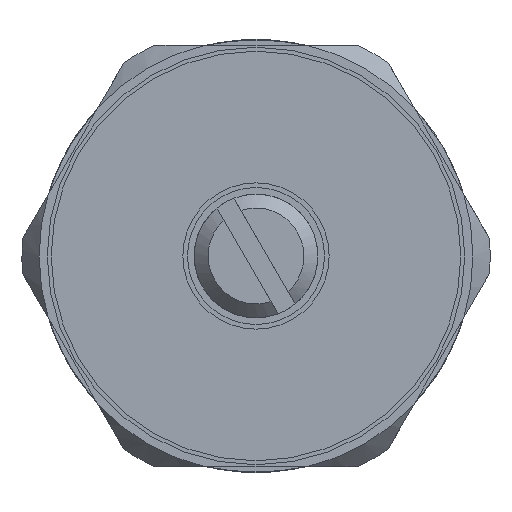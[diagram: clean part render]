
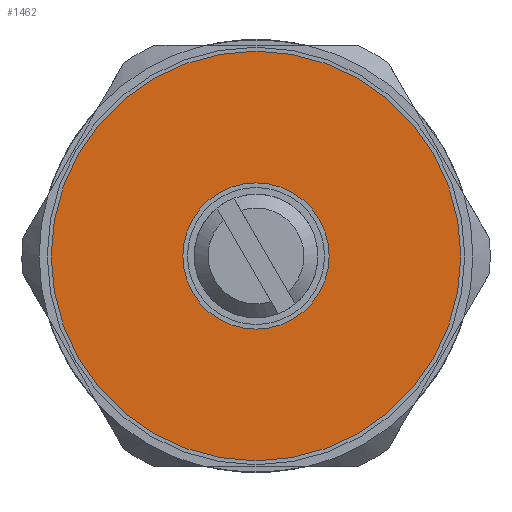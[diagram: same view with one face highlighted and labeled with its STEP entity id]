
A CAD part, left-side view. The second image highlights one B-rep face of the part: STEP entity #1462.
In plain terms, the highlighted planar face has unit normal (-1, 0, 0).
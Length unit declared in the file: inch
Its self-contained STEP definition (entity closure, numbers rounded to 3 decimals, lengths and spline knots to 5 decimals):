
#76=FACE_BOUND('',#243,.T.);
#104=PLANE('',#1600);
#159=FACE_OUTER_BOUND('',#242,.T.);
#242=EDGE_LOOP('',(#1075,#1076));
#243=EDGE_LOOP('',(#1077,#1078));
#440=CIRCLE('',#1545,0.14764);
#441=CIRCLE('',#1546,0.14764);
#470=CIRCLE('',#1601,0.41339);
#471=CIRCLE('',#1602,0.41339);
#557=VERTEX_POINT('',#2209);
#558=VERTEX_POINT('',#2210);
#611=VERTEX_POINT('',#2418);
#612=VERTEX_POINT('',#2419);
#709=EDGE_CURVE('',#557,#558,#440,.T.);
#710=EDGE_CURVE('',#558,#557,#441,.T.);
#790=EDGE_CURVE('',#611,#612,#470,.T.);
#791=EDGE_CURVE('',#612,#611,#471,.T.);
#1075=ORIENTED_EDGE('',*,*,#790,.T.);
#1076=ORIENTED_EDGE('',*,*,#791,.T.);
#1077=ORIENTED_EDGE('',*,*,#709,.T.);
#1078=ORIENTED_EDGE('',*,*,#710,.T.);
#1462=ADVANCED_FACE('',(#159,#76),#104,.T.);
#1545=AXIS2_PLACEMENT_3D('',#2211,#1753,#1754);
#1546=AXIS2_PLACEMENT_3D('',#2212,#1755,#1756);
#1600=AXIS2_PLACEMENT_3D('',#2417,#1890,#1891);
#1601=AXIS2_PLACEMENT_3D('',#2420,#1892,#1893);
#1602=AXIS2_PLACEMENT_3D('',#2421,#1894,#1895);
#1753=DIRECTION('center_axis',(1.,0.,0.));
#1754=DIRECTION('ref_axis',(0.,0.866,-0.5));
#1755=DIRECTION('center_axis',(1.,0.,0.));
#1756=DIRECTION('ref_axis',(0.,0.866,-0.5));
#1890=DIRECTION('center_axis',(-1.,0.,0.));
#1891=DIRECTION('ref_axis',(0.,0.866,-0.5));
#1892=DIRECTION('center_axis',(-1.,0.,0.));
#1893=DIRECTION('ref_axis',(0.,0.866,-0.5));
#1894=DIRECTION('center_axis',(-1.,0.,0.));
#1895=DIRECTION('ref_axis',(0.,0.866,-0.5));
#2209=CARTESIAN_POINT('',(-2.25408,0.22916,-0.41816));
#2210=CARTESIAN_POINT('',(-2.25408,-0.02656,-0.27052));
#2211=CARTESIAN_POINT('Origin',(-2.25408,0.1013,-0.34434));
#2212=CARTESIAN_POINT('Origin',(-2.25408,0.1013,-0.34434));
#2417=CARTESIAN_POINT('Origin',(-2.25408,0.1013,-0.34434));
#2418=CARTESIAN_POINT('',(-2.25408,0.4593,-0.55103));
#2419=CARTESIAN_POINT('',(-2.25408,-0.2567,-0.13765));
#2420=CARTESIAN_POINT('Origin',(-2.25408,0.1013,-0.34434));
#2421=CARTESIAN_POINT('Origin',(-2.25408,0.1013,-0.34434));
